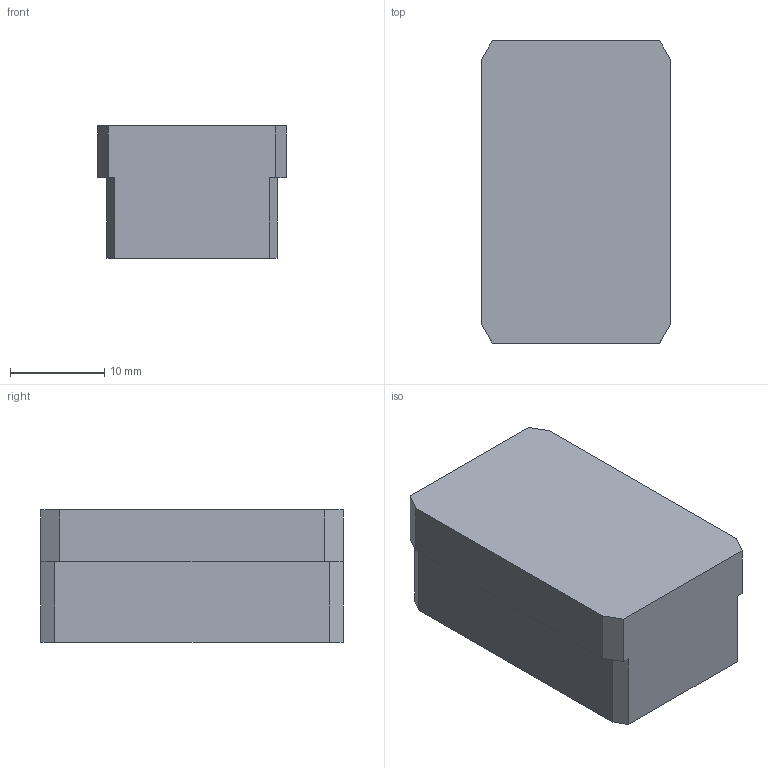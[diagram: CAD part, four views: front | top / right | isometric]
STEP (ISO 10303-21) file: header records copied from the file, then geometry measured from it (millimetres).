
FILE_DESCRIPTION (( 'STEP AP203' ), '1' );
FILE_NAME ('452018.STEP', '2016-11-16T10:18:52', ( '' ), ( '' ), 'SwSTEP 2.0', 'SolidWorks 2015', '' );
FILE_SCHEMA (( 'CONFIG_CONTROL_DESIGN' ));
Length unit declared in the file: millimetre
Products named in the file (1): 452018
Bounding box: 20 x 32 x 14 mm (x, y, z)
Volume: 8369.6 mm3; surface area: 2653.1 mm2
Topology: 1 solids, 1 shells, 18 faces, 48 edges, 32 vertices
Faces by surface type: plane 18
Entity records: 629 total; most frequent: CARTESIAN_POINT 99, ORIENTED_EDGE 96, DIRECTION 86, EDGE_CURVE 48, LINE 48, VECTOR 48, VERTEX_POINT 32, AXIS2_PLACEMENT_3D 19
